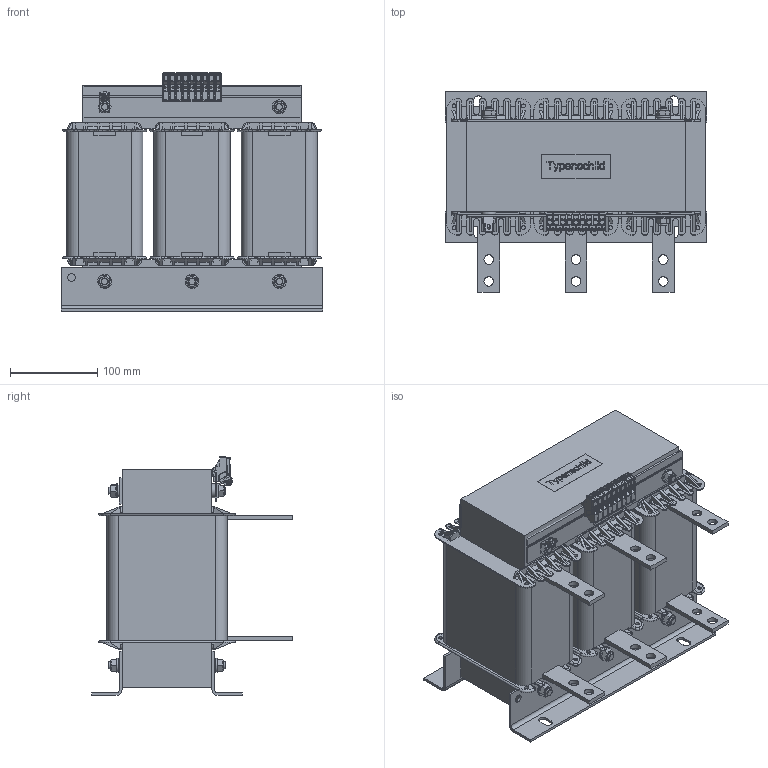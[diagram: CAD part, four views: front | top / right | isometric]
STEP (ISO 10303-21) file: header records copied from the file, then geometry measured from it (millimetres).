
FILE_DESCRIPTION(/* description */ (''),/* implementation_level */ '2;1');
FILE_NAME(/* name */ 'DTZ6,3 200-690V_18,5V.stp',/* time_stamp */ '2023-10-04T13:43:26+02:00',/* author */ ('CERNY'),/* organization */ (''),/* preprocessor_version */ 'ST-DEVELOPER v19.2',/* originating_system */ 'Autodesk Inventor 2023',/* authorisation */ '');
FILE_SCHEMA (('AUTOMOTIVE_DESIGN { 1 0 10303 214 3 1 1 }'));
Products named in the file (1): X0001 DTZ 017
Bounding box: 300 x 230.3 x 274 mm (x, y, z)
Volume: 8092361.4 mm3; surface area: 940942 mm2
Topology: 1 solids, 1 shells, 7241 faces, 19701 edges, 12433 vertices
Faces by surface type: plane 4736, cylinder 1590, bspline 544, torus 329, cone 41, sphere 1
Full cylindrical faces by diameter (mm): 4 x1, 4.5 x24, 5 x1, 8 x10, 9 x2, 11 x13, 14 x9, 16 x11
Entity records: 248443 total; most frequent: CARTESIAN_POINT 58949, ORIENTED_EDGE 39328, DIRECTION 36383, EDGE_CURVE 19664, LINE 14915, VECTOR 14915, VERTEX_POINT 12433, AXIS2_PLACEMENT_3D 10734
